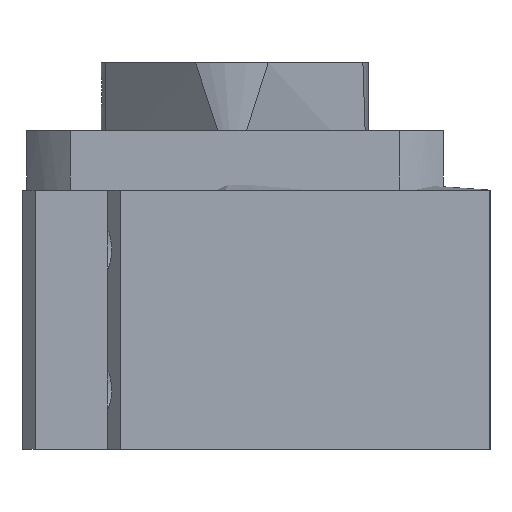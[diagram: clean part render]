
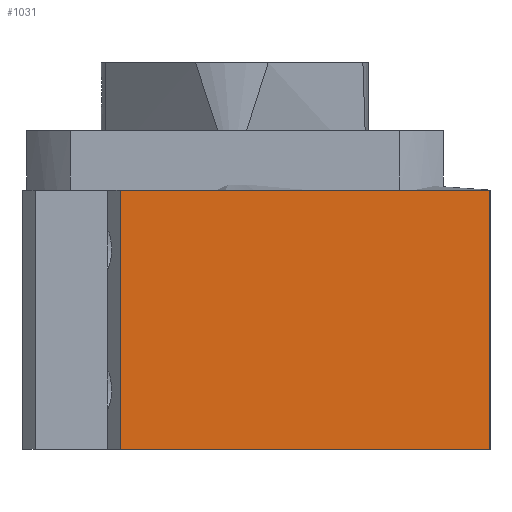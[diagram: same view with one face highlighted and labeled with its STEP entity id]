
A CAD part, left-side view. The second image highlights one B-rep face of the part: STEP entity #1031.
In plain terms, the highlighted planar face has unit normal (1, 0, 0).
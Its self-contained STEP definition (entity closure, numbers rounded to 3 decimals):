
#774 = CARTESIAN_POINT ( 'NONE',  ( -80., -16., 61. ) ) ;
#822 = VERTEX_POINT ( 'NONE', #15026 ) ;
#842 = EDGE_CURVE ( 'NONE', #20757, #3747, #3967, .T. ) ;
#1021 = VERTEX_POINT ( 'NONE', #15551 ) ;
#1031 = ADVANCED_FACE ( 'NONE', ( #12399 ), #6056, .T. ) ;
#1185 = ORIENTED_EDGE ( 'NONE', *, *, #842, .F. ) ;
#1253 = CARTESIAN_POINT ( 'NONE',  ( -80., 42., 0. ) ) ;
#1784 = CARTESIAN_POINT ( 'NONE',  ( -80., 71., 61. ) ) ;
#2362 = ORIENTED_EDGE ( 'NONE', *, *, #7412, .F. ) ;
#2708 = CARTESIAN_POINT ( 'NONE',  ( -80., 71., 61. ) ) ;
#3747 = VERTEX_POINT ( 'NONE', #12294 ) ;
#3859 = CARTESIAN_POINT ( 'NONE',  ( -80., -16., 0. ) ) ;
#3967 = B_SPLINE_CURVE_WITH_KNOTS ( 'NONE', 3,
 ( #6787, #19660, #5204, #10173 ),
 .UNSPECIFIED., .F., .F.,
 ( 4, 4 ),
 ( 0., 1. ),
 .UNSPECIFIED. ) ;
#4275 = B_SPLINE_CURVE_WITH_KNOTS ( 'NONE', 3,
 ( #17876, #6479, #8249, #1784 ),
 .UNSPECIFIED., .F., .F.,
 ( 4, 4 ),
 ( 0., 1. ),
 .UNSPECIFIED. ) ;
#5204 = CARTESIAN_POINT ( 'NONE',  ( -80., 71., 20.333 ) ) ;
#5205 = B_SPLINE_CURVE_WITH_KNOTS ( 'NONE', 3,
 ( #9516, #18709, #1253, #9207 ),
 .UNSPECIFIED., .F., .F.,
 ( 4, 4 ),
 ( 0., 1. ),
 .UNSPECIFIED. ) ;
#6056 = PLANE ( 'NONE',  #6858 ) ;
#6479 = CARTESIAN_POINT ( 'NONE',  ( -80., 13., 61. ) ) ;
#6664 = ORIENTED_EDGE ( 'NONE', *, *, #14061, .F. ) ;
#6737 = ORIENTED_EDGE ( 'NONE', *, *, #9263, .T. ) ;
#6787 = CARTESIAN_POINT ( 'NONE',  ( -80., 71., 61. ) ) ;
#6858 = AXIS2_PLACEMENT_3D ( 'NONE', #10909, #12500, #10809 ) ;
#7412 = EDGE_CURVE ( 'NONE', #1021, #20757, #4275, .T. ) ;
#8249 = CARTESIAN_POINT ( 'NONE',  ( -80., 42., 61. ) ) ;
#8906 = EDGE_LOOP ( 'NONE', ( #1185, #2362, #6664, #6737 ) ) ;
#9207 = CARTESIAN_POINT ( 'NONE',  ( -80., 71., 0. ) ) ;
#9263 = EDGE_CURVE ( 'NONE', #822, #3747, #5205, .T. ) ;
#9516 = CARTESIAN_POINT ( 'NONE',  ( -80., -16., 0. ) ) ;
#10173 = CARTESIAN_POINT ( 'NONE',  ( -80., 71., 0. ) ) ;
#10809 = DIRECTION ( 'NONE',  ( 0., 1., 0. ) ) ;
#10909 = CARTESIAN_POINT ( 'NONE',  ( -80., -16., 61. ) ) ;
#12294 = CARTESIAN_POINT ( 'NONE',  ( -80., 71., 0. ) ) ;
#12399 = FACE_OUTER_BOUND ( 'NONE', #8906, .T. ) ;
#12500 = DIRECTION ( 'NONE',  ( 1., 0., 0. ) ) ;
#13141 = B_SPLINE_CURVE_WITH_KNOTS ( 'NONE', 3,
 ( #3859, #15278, #13605, #774 ),
 .UNSPECIFIED., .F., .F.,
 ( 4, 4 ),
 ( 0., 1. ),
 .UNSPECIFIED. ) ;
#13605 = CARTESIAN_POINT ( 'NONE',  ( -80., -16., 40.667 ) ) ;
#14061 = EDGE_CURVE ( 'NONE', #822, #1021, #13141, .T. ) ;
#15026 = CARTESIAN_POINT ( 'NONE',  ( -80., -16., 0. ) ) ;
#15278 = CARTESIAN_POINT ( 'NONE',  ( -80., -16., 20.333 ) ) ;
#15551 = CARTESIAN_POINT ( 'NONE',  ( -80., -16., 61. ) ) ;
#17876 = CARTESIAN_POINT ( 'NONE',  ( -80., -16., 61. ) ) ;
#18709 = CARTESIAN_POINT ( 'NONE',  ( -80., 13., 0. ) ) ;
#19660 = CARTESIAN_POINT ( 'NONE',  ( -80., 71., 40.667 ) ) ;
#20757 = VERTEX_POINT ( 'NONE', #2708 ) ;
